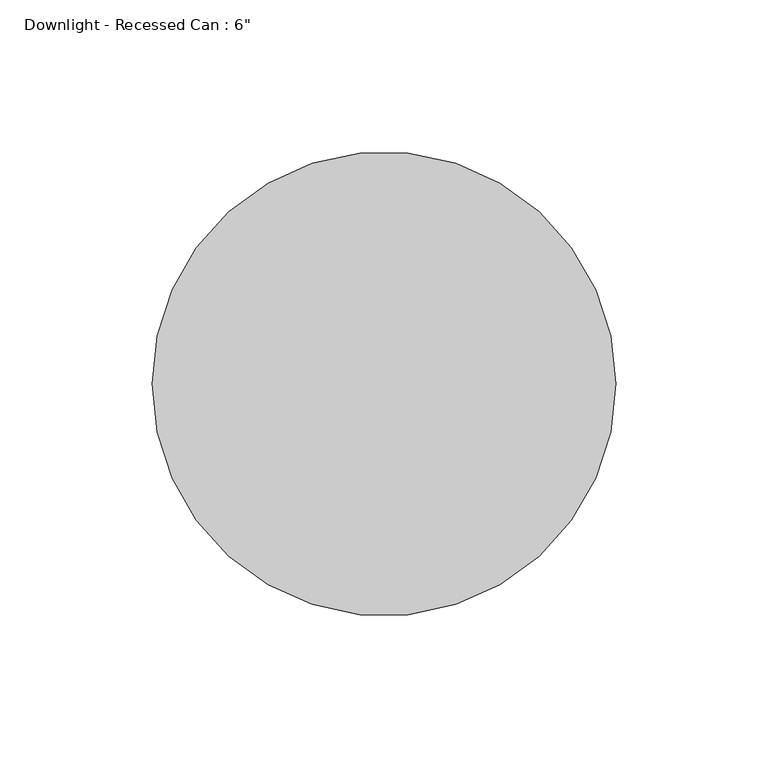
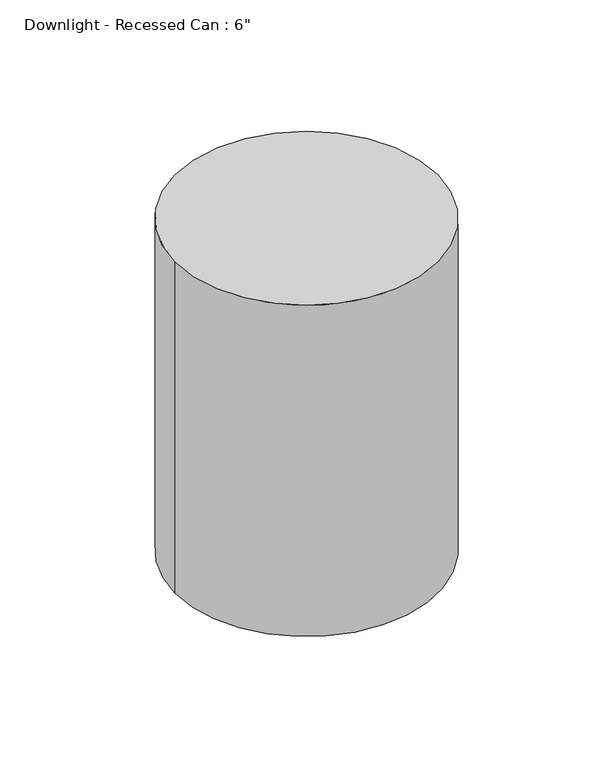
"""IFC4 building model written with IfcOpenShell, lengths in millimetres: light fixture geometry."""

from ifc_helpers import new_model, si_unit, point, frame, frame_2d, origin, place, context, project, spatial, circle_curve, trimmed, segment, composite_curve, outline, extrude, source, transform, mapped, element, save


def light_fixture_cae93c3e(model_context):
    return source(origin(), model_context, "Body", "SweptSolid", [
        extrude(outline(composite_curve([segment(trimmed(circle_curve(frame_2d((40.2739757, -48.6411396)), 76.2), [point((-35.9260243, -48.6411396))], [point((116.4739757, -48.6411396))], False, "CARTESIAN"), True, "CONTINUOUS"), segment(trimmed(circle_curve(frame_2d((40.2739757, -48.6411396)), 76.2), [point((116.4739757, -48.6411396))], [point((-35.9260243, -48.6411396))], False, "CARTESIAN"), True, "CONTINUOUS")], self_intersect=False)), frame((0.0, 0.0, 2436.0916032), z_axis=(0.0, 0.0, 1.0), x_axis=(1.0, 0.0, 0.0)), (0.0, 0.0, 1.0), 203.2),
    ])


if __name__ == "__main__":
    model = new_model("IFC4")
    model_context = context("Model", 3, world=origin())
    ifc_project = project(units=[si_unit("LENGTHUNIT", "METRE", prefix="MILLI")], contexts=[model_context])
    site = spatial("IfcSite", under=ifc_project)
    building = spatial("IfcBuilding", under=site)
    placement = place(None, origin())
    light_fixture_shape = light_fixture_cae93c3e(model_context)
    element("IfcLightFixture", 1, ObjectType="Downlight - Recessed Can : 6\"", at=placement, inside=building, context=model_context, shape_type="MappedRepresentation", body=[
        mapped(light_fixture_shape, transform((0.0, 0.0, 0.0), x_axis=(1.0, 0.0, 0.0), y_axis=(0.0, 1.0, 0.0), z_axis=(0.0, 0.0, 1.0))),
    ])
    save(model, "model.ifc")
